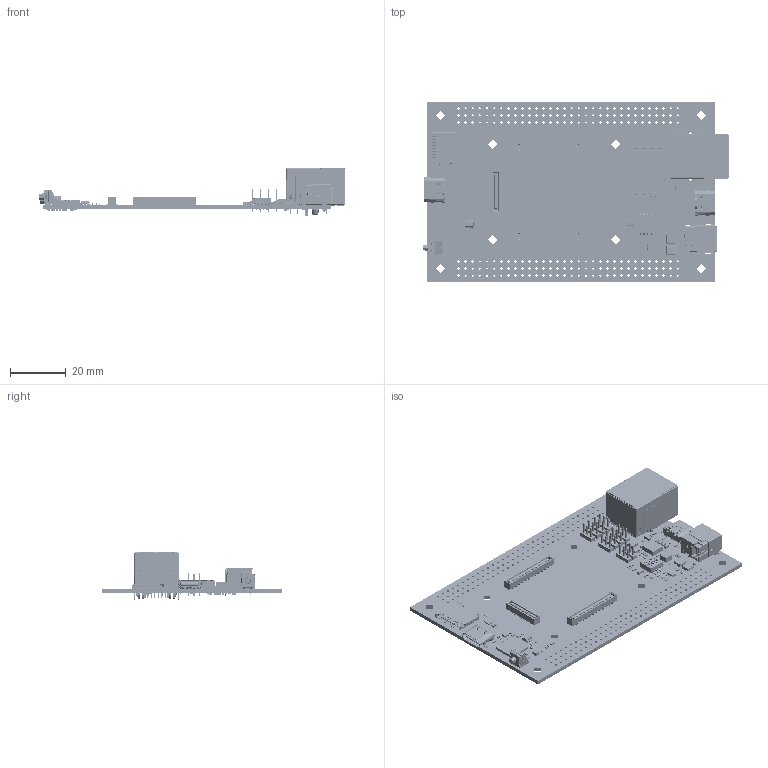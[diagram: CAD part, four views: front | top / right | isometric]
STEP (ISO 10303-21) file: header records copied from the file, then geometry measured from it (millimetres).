
FILE_DESCRIPTION(('KiCad electronic assembly'),'2;1');
FILE_NAME('xlc2201-01_carrier.step','2025-09-08T15:52:03',('Pcbnew'),( 'Kicad'),'Open CASCADE STEP processor 7.6','KiCad to STEP converter' ,'Unknown');
FILE_SCHEMA(('AUTOMOTIVE_DESIGN { 1 0 10303 214 1 1 1 1 }'));
Length unit declared in the file: millimetre
Products named in the file (435): xlc2201-01_carrier 1; MPS_MPM54322; xlc2201-01_carrier 1.1.1; R_0402_1005Metric; Solid1; Solid2; Solid3; C_0603_1608Metric; TENSILITY_54-00127; 54-00127_54-00127; C_0402_1005Metric; FB_0402_1005Metric; NX3020_SC-88_SOT363; part; SAMTEC_TMM-103-03-L-S; TMM-103-03-L-S_body; TMM-103-03-L-S_pins1; TMM-103-03-L-S_pins2; TPSM828303ARDSR; NEXPERIA_PCMF1USB3SZ; NXP_NVT4858; LED_XZxx68x-2; HIROSE_DF40HC(3.0)-60DS; DF40HC(3.0)-60DS; PPAK1212-8_single; PPAK_1212_body; Pin5_8_single; Pin1_4; FTDI_QFN_H-56Q-TRAY; SOT23-6L_STM; HIROSE_DF40HC(3.0)-100DS-0.4V; DF40HC(3.0)-100DS-0.4V; BOURNS_7914S-1-000E; GCT-USB4110-GF-A; Ãƒâ€¡ÃƒÂÃ‚Â³ÃƒÂ½-\N\
Ãƒâ‚¬Ã‚Â­Ãƒâ€°ÃƒÂ¬1\N\2; Shapes; X-axis; XY-plane; LTC4365_TSOT-23_TS8_LIT; xlc2201-01_carrier 1.54.11 ...
Assembly tree (550 placements, depth 4):
  xlc2201-01_carrier 1
    MPS_MPM54322
      xlc2201-01_carrier 1.1.1
    R_0402_1005Metric  x54
      Solid1
      Solid2
      Solid2
      Solid3
    C_0603_1608Metric  x4
    TENSILITY_54-00127
      54-00127_54-00127
      54-00127_54-00127
      54-00127_54-00127
      54-00127_54-00127
      54-00127_54-00127
      54-00127_54-00127
    C_0402_1005Metric  x32
    FB_0402_1005Metric  x3
    NX3020_SC-88_SOT363  x3
      part
      part
      part
      part
      part
      part
      part
      part
    SAMTEC_TMM-103-03-L-S  x10
      TMM-103-03-L-S_body
      TMM-103-03-L-S_pins1
      TMM-103-03-L-S_pins2
    TPSM828303ARDSR
    NEXPERIA_PCMF1USB3SZ
    NXP_NVT4858
    LED_XZxx68x-2  x6
    HIROSE_DF40HC(3.0)-60DS
      DF40HC(3.0)-60DS
      DF40HC(3.0)-60DS
      DF40HC(3.0)-60DS
      DF40HC(3.0)-60DS
      DF40HC(3.0)-60DS
      DF40HC(3.0)-60DS
      DF40HC(3.0)-60DS
      DF40HC(3.0)-60DS
      DF40HC(3.0)-60DS
      DF40HC(3.0)-60DS
      DF40HC(3.0)-60DS
      DF40HC(3.0)-60DS
      DF40HC(3.0)-60DS
      DF40HC(3.0)-60DS
      DF40HC(3.0)-60DS
      DF40HC(3.0)-60DS
      DF40HC(3.0)-60DS
      DF40HC(3.0)-60DS
      DF40HC(3.0)-60DS
      DF40HC(3.0)-60DS
      DF40HC(3.0)-60DS
      DF40HC(3.0)-60DS
      DF40HC(3.0)-60DS
      DF40HC(3.0)-60DS
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Bounding box: 109.9 x 65 x 17.22 mm (x, y, z)
Volume: 13461.7 mm3; surface area: 31402.8 mm2
Topology: 769 solids, 1309 shells, 22541 faces, 61007 edges, 40366 vertices
Faces by surface type: bspline 14114, plane 5398, cylinder 2139, torus 823, sphere 60, cone 7
Full cylindrical faces by diameter (mm): 0.088 x1, 0.135 x1, 0.15 x1, 0.152 x1, 0.3 x2, 0.4 x1, 0.762 x4, 0.889 x12, 0.89 x30, 1.02 x192, 1.702 x2, 3.2 x2, 3.4 x8
Entity records: 417897 total; most frequent: CARTESIAN_POINT 139107, ORIENTED_EDGE 68238, EDGE_CURVE 35547, DIRECTION 35358, VERTEX_POINT 23514, B_SPLINE_CURVE_WITH_KNOTS 16168, FACE_BOUND 14172, EDGE_LOOP 14172
